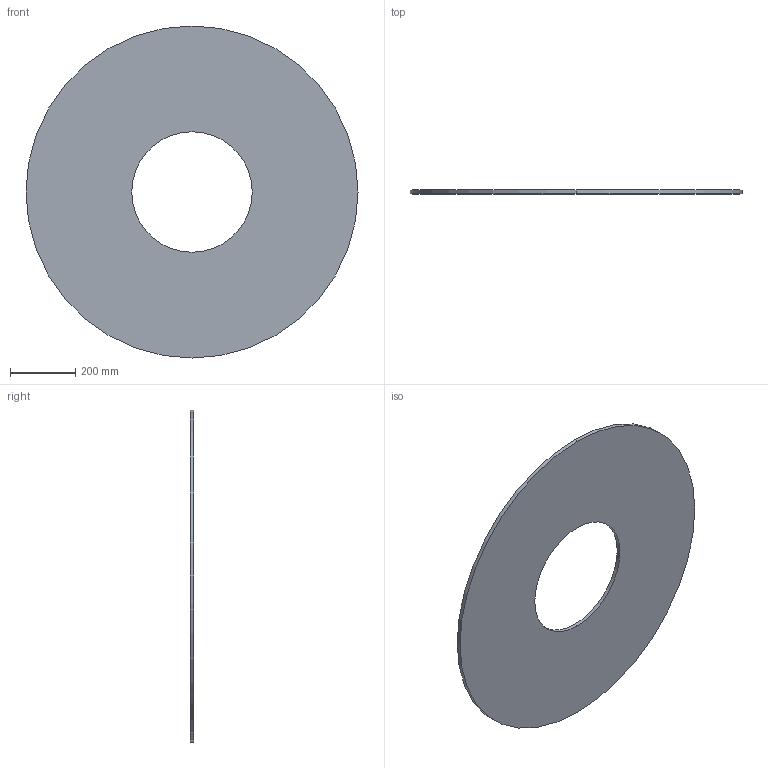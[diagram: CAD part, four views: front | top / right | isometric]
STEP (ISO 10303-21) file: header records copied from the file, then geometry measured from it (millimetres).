
FILE_DESCRIPTION (( 'STEP AP203' ), '1' );
FILE_NAME ('3D_R152_DN323.9_17305315.STEP', '2024-08-13T08:04:01', ( '' ), ( '' ), 'SwSTEP 2.0', 'SolidWorks 2024', '' );
FILE_SCHEMA (( 'CONFIG_CONTROL_DESIGN' ));
Length unit declared in the file: millimetre
Products named in the file (1): 3D_R152_DN323.9_17305315
Bounding box: 1020 x 12 x 1020 mm (x, y, z)
Volume: 8515286.9 mm3; surface area: 1471616.2 mm2
Topology: 1 solids, 1 shells, 6 faces, 12 edges, 8 vertices
Faces by surface type: cylinder 4, plane 2
Entity records: 245 total; most frequent: DIRECTION 34, CARTESIAN_POINT 27, ORIENTED_EDGE 24, AXIS2_PLACEMENT_3D 15, EDGE_CURVE 12, PERSON_AND_ORGANIZATION 8, EDGE_LOOP 8, CIRCLE 8
